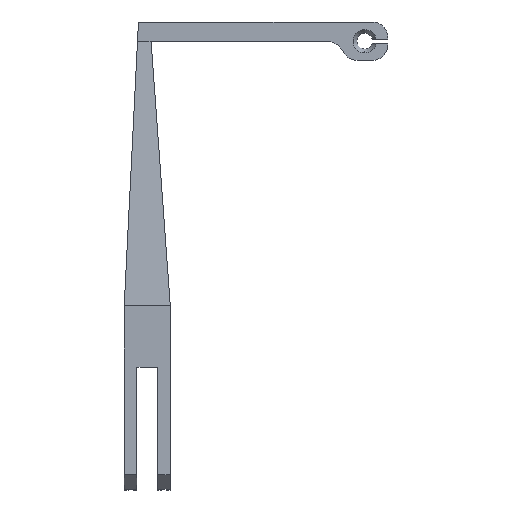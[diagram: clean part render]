
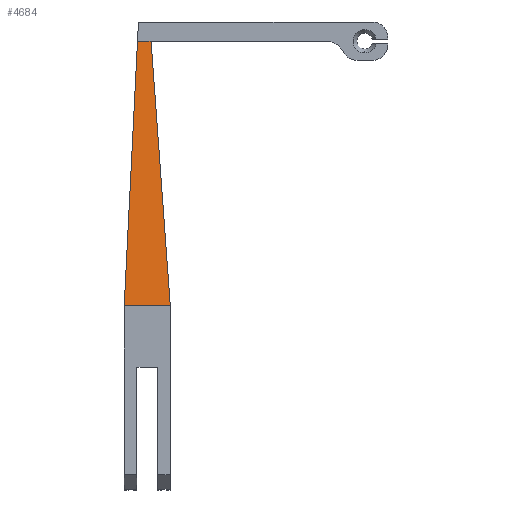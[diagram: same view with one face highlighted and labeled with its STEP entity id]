
A CAD part, top view. The second image highlights one B-rep face of the part: STEP entity #4684.
In plain terms, the highlighted planar face has unit normal (0, 0.108, 0.994) as drawn and (0, 0.994, -0.108) by its records, which use the part's own axes.
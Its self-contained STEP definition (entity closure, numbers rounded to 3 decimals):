
#99 = VECTOR ( 'NONE', #6309, 1000. ) ;
#283 = LINE ( 'NONE', #5138, #99 ) ;
#303 = EDGE_CURVE ( 'NONE', #5334, #4883, #2357, .T. ) ;
#564 = VECTOR ( 'NONE', #4979, 1000. ) ;
#666 = ORIENTED_EDGE ( 'NONE', *, *, #303, .F. ) ;
#735 = EDGE_CURVE ( 'NONE', #3743, #2945, #2270, .T. ) ;
#752 = ORIENTED_EDGE ( 'NONE', *, *, #5590, .F. ) ;
#800 = DIRECTION ( 'NONE',  ( 0.05, -0.108, -0.993 ) ) ;
#1357 = PLANE ( 'NONE',  #5772 ) ;
#1377 = CARTESIAN_POINT ( 'NONE',  ( -8.69, 7.51, -116.99 ) ) ;
#1460 = CARTESIAN_POINT ( 'NONE',  ( -5.24, 7.51, -116.99 ) ) ;
#1692 = VECTOR ( 'NONE', #1962, 1000. ) ;
#1909 = DIRECTION ( 'NONE',  ( 0., -0.108, -0.994 ) ) ;
#1962 = DIRECTION ( 'NONE',  ( 1., 0., 0. ) ) ;
#2226 = CARTESIAN_POINT ( 'NONE',  ( -8.69, 15.01, -47.99 ) ) ;
#2270 = LINE ( 'NONE', #2226, #564 ) ;
#2357 = LINE ( 'NONE', #3051, #1692 ) ;
#2677 = ORIENTED_EDGE ( 'NONE', *, *, #735, .T. ) ;
#2945 = VERTEX_POINT ( 'NONE', #6099 ) ;
#3051 = CARTESIAN_POINT ( 'NONE',  ( -8.69, 7.51, -116.99 ) ) ;
#3087 = EDGE_CURVE ( 'NONE', #2945, #4883, #283, .T. ) ;
#3743 = VERTEX_POINT ( 'NONE', #6100 ) ;
#4103 = CARTESIAN_POINT ( 'NONE',  ( -5.432, 7.928, -113.143 ) ) ;
#4127 = DIRECTION ( 'NONE',  ( 0., -0.994, 0.108 ) ) ;
#4684 = ADVANCED_FACE ( 'NONE', ( #6784 ), #1357, .F. ) ;
#4883 = VERTEX_POINT ( 'NONE', #4925 ) ;
#4886 = VECTOR ( 'NONE', #800, 1000. ) ;
#4925 = CARTESIAN_POINT ( 'NONE',  ( -1.69, 7.51, -116.99 ) ) ;
#4979 = DIRECTION ( 'NONE',  ( 1., 0., 0. ) ) ;
#5138 = CARTESIAN_POINT ( 'NONE',  ( -1.726, 7.456, -117.489 ) ) ;
#5334 = VERTEX_POINT ( 'NONE', #1460 ) ;
#5549 = EDGE_LOOP ( 'NONE', ( #2677, #5973, #666, #752 ) ) ;
#5590 = EDGE_CURVE ( 'NONE', #3743, #5334, #6398, .T. ) ;
#5772 = AXIS2_PLACEMENT_3D ( 'NONE', #1377, #4127, #1909 ) ;
#5973 = ORIENTED_EDGE ( 'NONE', *, *, #3087, .T. ) ;
#6099 = CARTESIAN_POINT ( 'NONE',  ( 3.31, 15.01, -47.99 ) ) ;
#6100 = CARTESIAN_POINT ( 'NONE',  ( -8.69, 15.01, -47.99 ) ) ;
#6309 = DIRECTION ( 'NONE',  ( -0.072, -0.108, -0.992 ) ) ;
#6398 = LINE ( 'NONE', #4103, #4886 ) ;
#6784 = FACE_OUTER_BOUND ( 'NONE', #5549, .T. ) ;
